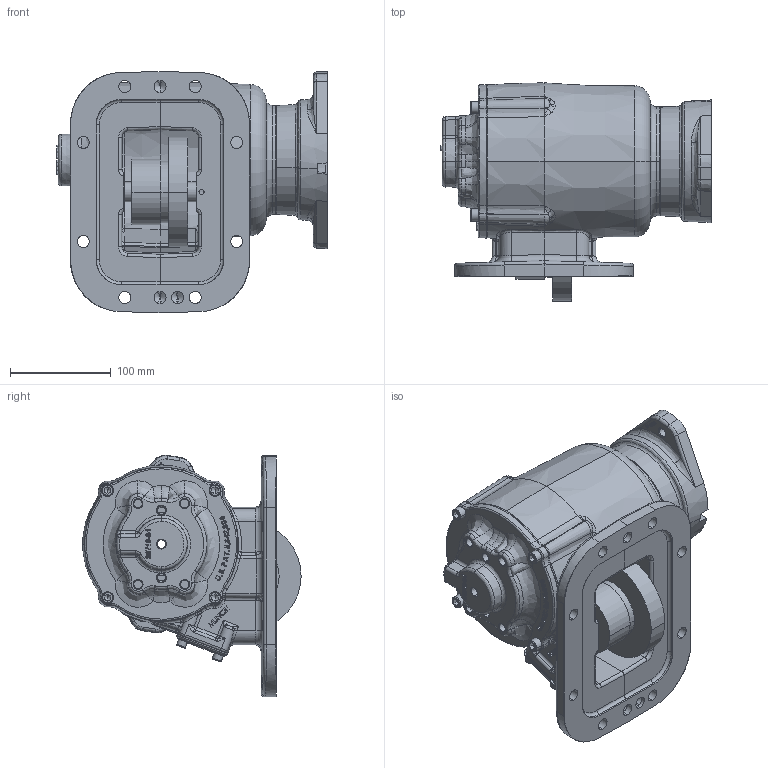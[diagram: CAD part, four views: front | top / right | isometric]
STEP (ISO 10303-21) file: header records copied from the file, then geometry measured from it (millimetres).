
FILE_DESCRIPTION (( 'STEP AP203' ), '1' );
FILE_NAME ('CS8S-XXXXX-X46X.STEP', '2012-06-12T14:32:20', ( '' ), ( '' ), 'SwSTEP 2.0', 'SolidWorks 2012', '' );
FILE_SCHEMA (( 'CONFIG_CONTROL_DESIGN' ));
Products named in the file (3): CS8S-XXXXX-X46X; 14T38981; CS8S-XXXXX-X4XX
Assembly tree (2 placements, depth 2):
  CS8S-XXXXX-X46X
    CS8S-XXXXX-X4XX
    14T38981
Bounding box: 268.87 x 216.75 x 239.83 mm (x, y, z)
Volume: 1952549.5 mm3; surface area: 459130 mm2
Topology: 2 solids, 14 shells, 2198 faces, 5590 edges, 3463 vertices
Faces by surface type: bspline 839, plane 549, cylinder 439, cone 285, torus 78, sphere 8
Entity records: 109566 total; most frequent: CARTESIAN_POINT 62392, ORIENTED_EDGE 11030, DIRECTION 7681, EDGE_CURVE 5515, VERTEX_POINT 3463, AXIS2_PLACEMENT_3D 2754, EDGE_LOOP 2434, FACE_OUTER_BOUND 2198
